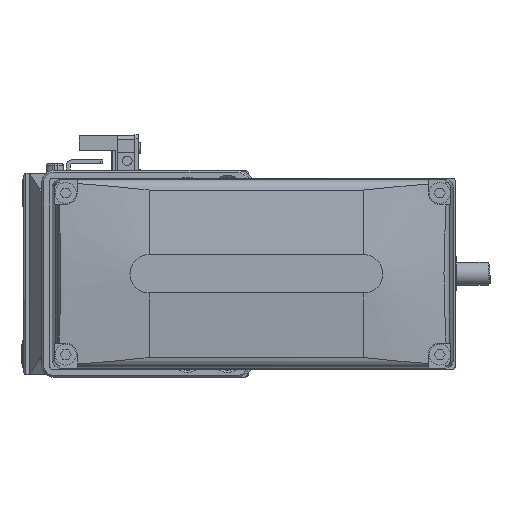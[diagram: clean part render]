
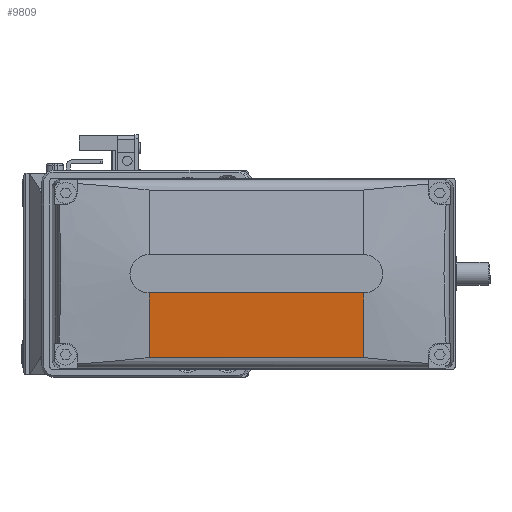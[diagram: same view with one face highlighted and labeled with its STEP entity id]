
A CAD part, left-side view. The second image highlights one B-rep face of the part: STEP entity #9809.
In plain terms, the highlighted planar face has unit normal (-0.996, 0, -0.087).
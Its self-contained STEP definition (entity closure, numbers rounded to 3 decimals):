
#1225 = VECTOR ( 'NONE', #7967, 1000. ) ;
#1579 = ORIENTED_EDGE ( 'NONE', *, *, #7958, .F. ) ;
#1929 = VERTEX_POINT ( 'NONE', #28666 ) ;
#2473 = VERTEX_POINT ( 'NONE', #14114 ) ;
#3251 = LINE ( 'NONE', #35524, #26352 ) ;
#4906 = CARTESIAN_POINT ( 'NONE',  ( -50., 128., -5. ) ) ;
#5035 = LINE ( 'NONE', #31642, #34088 ) ;
#5042 = ORIENTED_EDGE ( 'NONE', *, *, #18260, .F. ) ;
#5938 = CARTESIAN_POINT ( 'NONE',  ( -48.525, 28., -21.861 ) ) ;
#6647 = CARTESIAN_POINT ( 'NONE',  ( -50., 28., -5. ) ) ;
#7958 = EDGE_CURVE ( 'NONE', #2473, #1929, #5035, .T. ) ;
#7967 = DIRECTION ( 'NONE',  ( -0.087, 0., 0.996 ) ) ;
#8813 = FACE_OUTER_BOUND ( 'NONE', #15364, .T. ) ;
#9809 = ADVANCED_FACE ( 'NONE', ( #8813 ), #20584, .T. ) ;
#10829 = VERTEX_POINT ( 'NONE', #6647 ) ;
#11282 = EDGE_CURVE ( 'NONE', #2473, #10829, #20461, .T. ) ;
#12137 = DIRECTION ( 'NONE',  ( 0.087, 0., -0.996 ) ) ;
#13066 = EDGE_CURVE ( 'NONE', #15699, #10829, #19095, .T. ) ;
#14114 = CARTESIAN_POINT ( 'NONE',  ( -50., -28., -5. ) ) ;
#15364 = EDGE_LOOP ( 'NONE', ( #28992, #5042, #1579, #23798 ) ) ;
#15699 = VERTEX_POINT ( 'NONE', #5938 ) ;
#17761 = DIRECTION ( 'NONE',  ( 0., 1., 0. ) ) ;
#18260 = EDGE_CURVE ( 'NONE', #1929, #15699, #3251, .T. ) ;
#19095 = LINE ( 'NONE', #30025, #1225 ) ;
#20461 = LINE ( 'NONE', #34353, #23939 ) ;
#20584 = PLANE ( 'NONE',  #33414 ) ;
#21665 = DIRECTION ( 'NONE',  ( 0., 1., 0. ) ) ;
#23798 = ORIENTED_EDGE ( 'NONE', *, *, #11282, .T. ) ;
#23939 = VECTOR ( 'NONE', #17761, 1000. ) ;
#24358 = DIRECTION ( 'NONE',  ( -0.087, 0., 0.996 ) ) ;
#26352 = VECTOR ( 'NONE', #21665, 1000. ) ;
#26764 = DIRECTION ( 'NONE',  ( -0.996, 0., -0.087 ) ) ;
#28666 = CARTESIAN_POINT ( 'NONE',  ( -48.525, -28., -21.861 ) ) ;
#28992 = ORIENTED_EDGE ( 'NONE', *, *, #13066, .F. ) ;
#30025 = CARTESIAN_POINT ( 'NONE',  ( 43606.406, 28., -499000. ) ) ;
#31642 = CARTESIAN_POINT ( 'NONE',  ( 43606.406, -28., -499000. ) ) ;
#33414 = AXIS2_PLACEMENT_3D ( 'NONE', #4906, #26764, #24358 ) ;
#34088 = VECTOR ( 'NONE', #12137, 1000. ) ;
#34353 = CARTESIAN_POINT ( 'NONE',  ( -50., 128., -5. ) ) ;
#35524 = CARTESIAN_POINT ( 'NONE',  ( -48.525, 128., -21.861 ) ) ;
